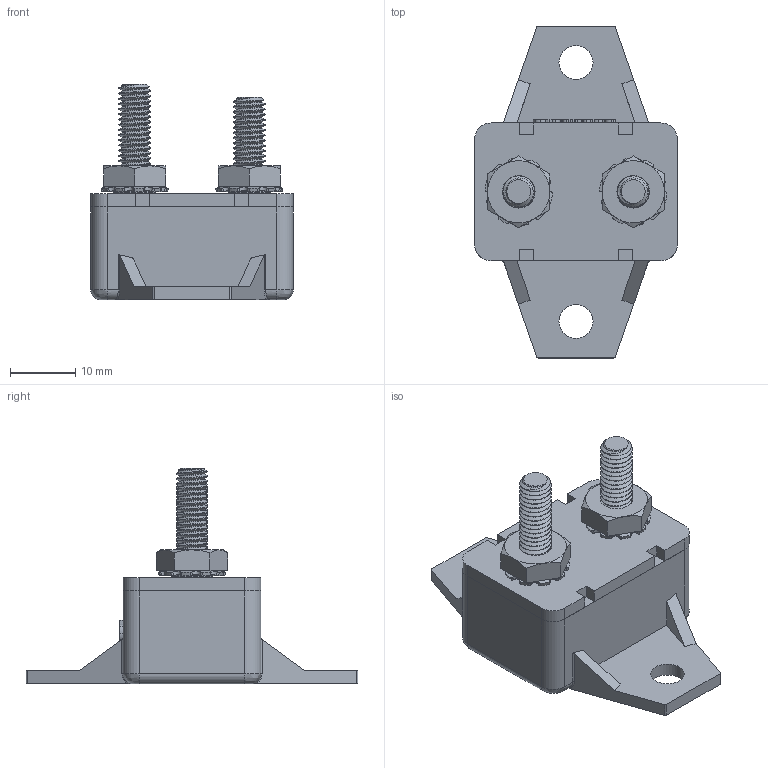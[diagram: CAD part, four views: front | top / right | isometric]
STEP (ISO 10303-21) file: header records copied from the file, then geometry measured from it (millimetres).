
FILE_DESCRIPTION(/* description */ (''),/* implementation_level */ '2;1');
FILE_NAME(/* name */ 'C:\Users\Hani\Desktop\work\ACBP-H-Gray\ACBP-H.stp',/* time_stamp */ '2021-08-06T12:56:53-07:00',/* author */ ('Hani'),/* organization */ (''),/* preprocessor_version */ 'ST-DEVELOPER v17',/* originating_system */ 'Autodesk Inventor 2019',/* authorisation */ '');
FILE_SCHEMA (('AUTOMOTIVE_DESIGN { 1 0 10303 214 3 1 1 }'));
Length unit declared in the file: inch
Products named in the file (4): ACBP-V; ACBP-V_1; THREADED ROD; HEX NUT WITH TOOTH WASHER
Assembly tree (5 placements, depth 2):
  ACBP-V
    ACBP-V_1
    THREADED ROD  x2
    HEX NUT WITH TOOTH WASHER  x2
Bounding box: 30.99 x 50.8 x 33.02 mm (x, y, z)
Volume: 12589.9 mm3; surface area: 7211.8 mm2
Topology: 8 solids, 8 shells, 478 faces, 1326 edges, 880 vertices
Faces by surface type: cylinder 168, plane 141, bspline 123, cone 46
Full cylindrical faces by diameter (mm): 3.795 x46, 3.967 x6, 4.826 x52, 5.207 x2, 6.35 x2, 6.413 x2
Entity records: 17370 total; most frequent: CARTESIAN_POINT 9178, ORIENTED_EDGE 1908, DIRECTION 1288, EDGE_CURVE 954, VERTEX_POINT 632, LINE 460, VECTOR 460, AXIS2_PLACEMENT_3D 414
